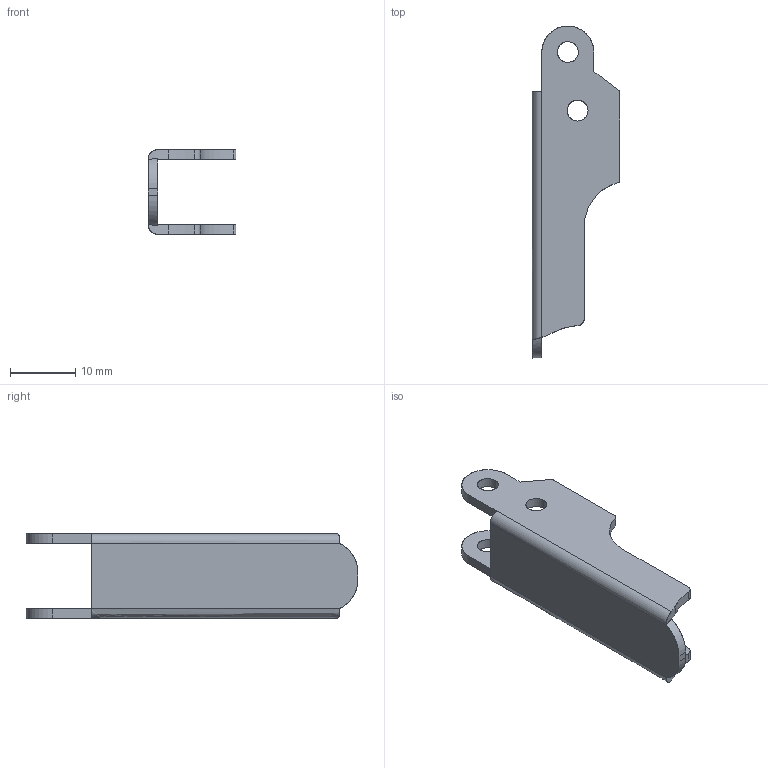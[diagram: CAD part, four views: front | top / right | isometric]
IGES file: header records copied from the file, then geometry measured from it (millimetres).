
Start section: SolidWorks IGES FILE using analytic representation for surfaces
Global section: file name: C:\WINNT\Profiles\cbrechard\Bureau\GE 570\535.010.00.IGS; native system: SolidWorks 2001Plus by SolidWorks Corporation; preprocessor: Version 5.3; author: CBRECHARD; date: 050125.140234; units: millimetre
Bounding box: 13.5 x 51 x 13 mm (x, y, z)
Surface area: 2850.8 mm2 (no closed solid volume)
Topology: 0 solids, 0 shells, 44 faces, 670 edges, 670 vertices
Faces by surface type: revolution 26, bspline 18
